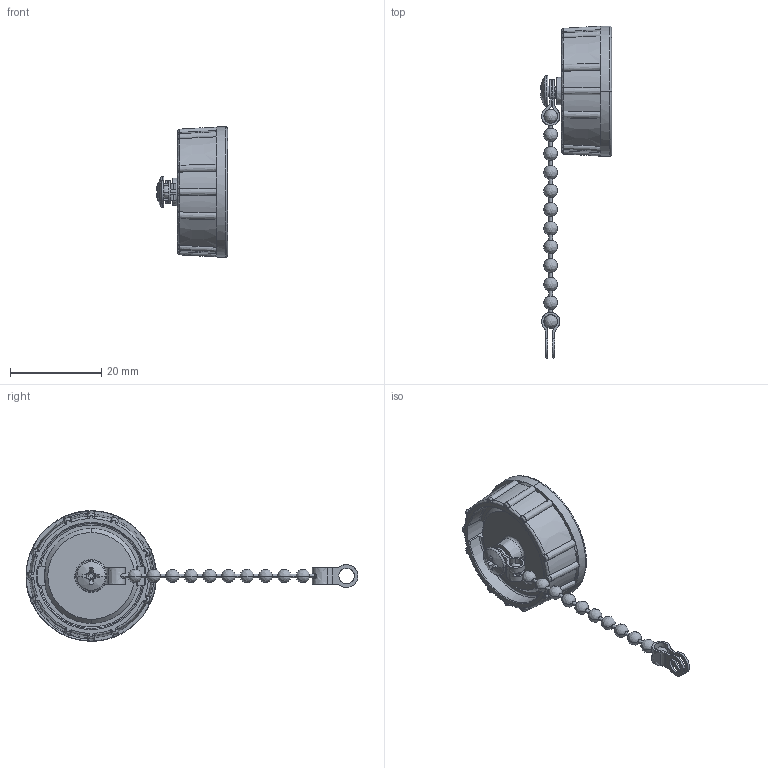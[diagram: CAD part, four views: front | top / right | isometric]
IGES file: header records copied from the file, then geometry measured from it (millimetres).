
Start section:  PTC IGES file: cap-wadmlpb1.igs
Global section: file name: cap-wadmlpb1.igs; native system: Creo Parametric by Parametric Technology Corporation; preprocessor: 2017170; author: L210023; organization: Unknown; date: 20210714.114017; units: millimetre
Bounding box: 15.63 x 72.79 x 28.64 mm (x, y, z)
Volume: 3734.8 mm3; surface area: 3872.4 mm2
Topology: 3 solids, 3 shells, 337 faces, 1029 edges, 587 vertices
Faces by surface type: bspline 337
